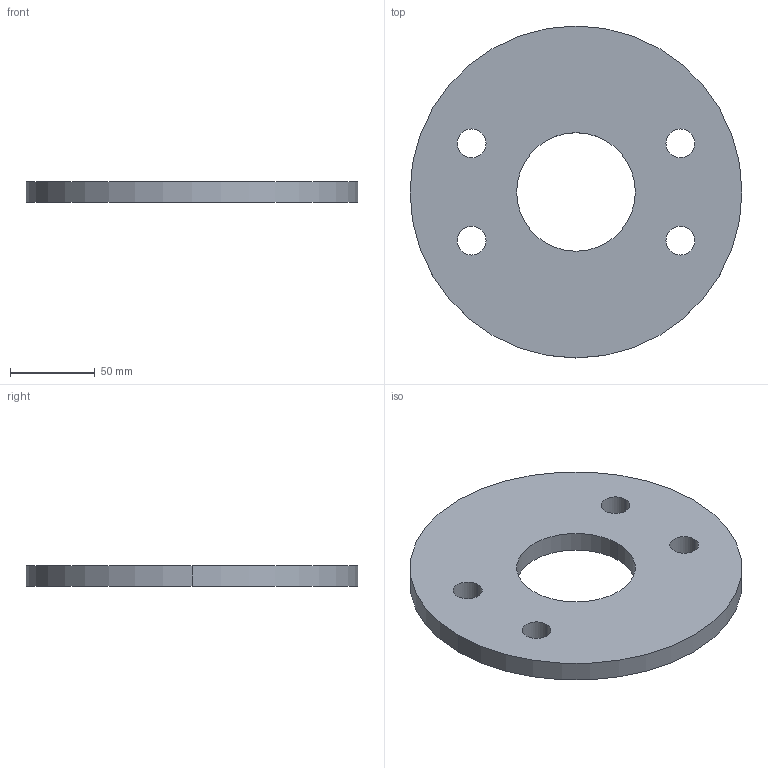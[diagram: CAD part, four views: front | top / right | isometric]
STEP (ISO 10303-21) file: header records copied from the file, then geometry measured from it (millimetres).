
FILE_DESCRIPTION (( 'STEP AP203' ), '1' );
FILE_NAME ('Kreissscheibe M16.STEP', '2018-02-22T05:50:14', ( 'install' ), ( 'Hewlett-Packard Company' ), 'SwSTEP 2.0', 'SolidWorks 2017', '' );
FILE_SCHEMA (( 'CONFIG_CONTROL_DESIGN' ));
Length unit declared in the file: millimetre
Products named in the file (1): Kreissscheibe M16
Bounding box: 196 x 196 x 12 mm (x, y, z)
Volume: 304985.8 mm3; surface area: 63422.5 mm2
Topology: 1 solids, 1 shells, 14 faces, 36 edges, 24 vertices
Faces by surface type: cylinder 12, plane 2
Entity records: 541 total; most frequent: DIRECTION 90, CARTESIAN_POINT 75, ORIENTED_EDGE 72, AXIS2_PLACEMENT_3D 39, EDGE_CURVE 36, CIRCLE 24, EDGE_LOOP 24, VERTEX_POINT 24
